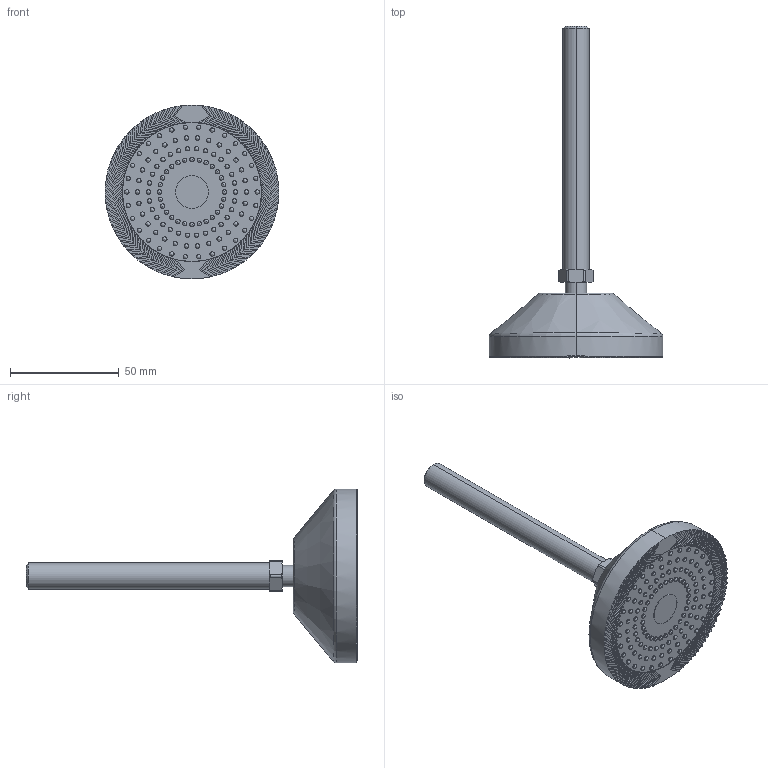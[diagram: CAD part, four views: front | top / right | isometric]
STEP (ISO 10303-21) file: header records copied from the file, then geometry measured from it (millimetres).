
FILE_DESCRIPTION (( 'STEP AP214' ), '1' );
FILE_NAME ('1.5023 S鳵t鐱alka D80 M12 C.STEP', '2024-03-07T12:53:07', ( '' ), ( '' ), 'SwSTEP 2.0', 'SolidWorks 2024', '' );
FILE_SCHEMA (( 'AUTOMOTIVE_DESIGN' ));
Length unit declared in the file: millimetre
Products named in the file (1): 1.5023 Säätöjalka D80 M12 C
Bounding box: 80 x 152.8 x 80 mm (x, y, z)
Volume: 115165.6 mm3; surface area: 20014.7 mm2
Topology: 1 solids, 1 shells, 1209 faces, 3160 edges, 2048 vertices
Faces by surface type: cylinder 554, plane 517, bspline 90, sphere 28, cone 16, torus 4
Entity records: 64912 total; most frequent: CARTESIAN_POINT 22094, DIRECTION 6376, ORIENTED_EDGE 6152, EDGE_CURVE 3076, AXIS2_PLACEMENT_3D 2396, VERTEX_POINT 1992, LINE 1584, VECTOR 1584
